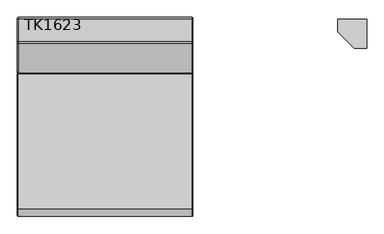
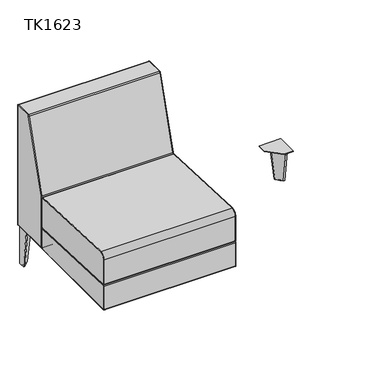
"""IFC4 building model written with IfcOpenShell, lengths in millimetres: furniture geometry, JSI-Teekan-Two_Seat_Lounge : TK1623."""

from ifc_helpers import new_model, si_unit, point, frame, origin, place, context, project, spatial, polyline, circle_curve, ellipse_curve, trimmed, outline, extrude, source, transform, mapped, element, save
from ifc_brep_helpers import plane_surface, cylinder_surface, revolved_surface, spline_surface, advanced_brep


def tk1623_f2258a03(model_context):
    return source(origin(), model_context, "Body", "SolidModel", [
        advanced_brep(
        [(599.6013333, 340.133006, 3.1926572), (599.6013333, 340.133006, 4.9994321), (599.6013333, 325.6863843, 4.9994321), (599.6013333, 325.6863843, 3.1926572), (599.6013333, 336.9403488, 0.0), (599.6013333, 328.8790415, 0.0), (599.6013333, 332.9096951, 0.0), (599.6013333, 332.9096951, 4.9994321)],
        [
            (0, 1),
            (1, 2, circle_curve(frame((599.6013333, 332.9096951, 4.9994321), z_axis=(0.0, 0.0, -1.0), x_axis=(0.0, -1.0, 0.0)), 7.2233108)),
            (2, 3),
            (3, 0, circle_curve(frame((599.6013333, 332.9096951, 3.1926572), z_axis=(0.0, 0.0, 1.0), x_axis=(0.0, -1.0, 0.0)), 7.2233108)),
            (2, 1, circle_curve(frame((599.6013333, 332.9096951, 4.9994321), z_axis=(0.0, 0.0, -1.0), x_axis=(0.0, -1.0, 0.0)), 7.2233108)),
            (0, 3, circle_curve(frame((599.6013333, 332.9096951, 3.1926572), z_axis=(0.0, 0.0, 1.0), x_axis=(0.0, -1.0, 0.0)), 7.2233108)),
            (4, 0, circle_curve(frame((599.6013333, 336.9403488, 3.1926572), z_axis=(1.0, 0.0, 0.0), x_axis=(0.0, 1.0, 0.0)), 3.1926572)),
            (3, 5, circle_curve(frame((599.6013333, 328.8790415, 3.1926572), z_axis=(1.0, 0.0, 0.0), x_axis=(0.0, -1.0, 0.0)), 3.1926572)),
            (5, 4, circle_curve(frame((599.6013333, 332.9096951, 0.0), z_axis=(0.0, 0.0, 1.0), x_axis=(0.0, -1.0, 0.0)), 4.0306536)),
            (4, 5, circle_curve(frame((599.6013333, 332.9096951, 0.0), z_axis=(0.0, 0.0, 1.0), x_axis=(0.0, -1.0, 0.0)), 4.0306536)),
            (6, 4),
            (5, 6),
            (1, 7),
            (7, 2),
        ],
        [
            cylinder_surface(frame((599.6013333, 332.9096951, 14.2077797), z_axis=(0.0, 0.0, -1.0), x_axis=(0.0, -1.0, 0.0)), 7.2233108),
            revolved_surface(trimmed(ellipse_curve(frame((599.6013333, 328.8790415, 3.1926572), z_axis=(1.0, 0.0, 0.0), x_axis=(0.0, -1.0, 0.0)), 3.1926572, 3.1926572), [point((599.6013333, 325.6863843, 3.1926572))], [point((599.6013333, 328.8790415, 0.0))], True, "CARTESIAN"), (599.6013333, 332.9096951, 14.2077797), (0.0, 0.0, -1.0)),
            plane_surface(frame((599.6013333, 332.9096951, 0.0), z_axis=(0.0, 0.0, -1.0), x_axis=(0.0, -1.0, 0.0))),
            plane_surface(frame((599.6013333, 332.9096951, 4.9994321), z_axis=(0.0, 0.0, 1.0), x_axis=(0.0, -1.0, 0.0))),
        ],
        [
            (0, [[1, 2, 3, 4]]),
            (0, [[-3, 5, -1, 6]]),
            (1, [[7, -4, 8, 9]]),
            (1, [[-8, -6, -7, 10]]),
            (2, [[11, -9, 12]]),
            (2, [[-12, -10, -11]]),
            (3, [[13, 14, -2]]),
            (3, [[-14, -13, -5]]),
        ],
    ),
        advanced_brep(
        [(555.625, 336.5496631, 189.4817329), (603.25, 288.9246631, 189.4817329), (609.6, 288.9246631, 189.4817329), (609.6, 339.725, 189.4817329), (606.425, 342.9, 189.4817329), (555.625, 342.9, 189.4817329), (577.85, 336.5496631, 4.9994321), (577.85, 342.9, 4.9994321), (606.3969923, 342.9, 4.9994321), (609.6, 339.6969923, 4.9994321), (609.6, 311.1496631, 4.9994321), (603.25, 311.1496631, 4.9994321)],
        [
            (0, 1),
            (1, 2),
            (2, 3),
            (3, 4, circle_curve(frame((606.425, 339.725, 189.4817329), z_axis=(0.0, 0.0, 1.0), x_axis=(-1.0, 0.0, 0.0)), 3.175)),
            (4, 5),
            (5, 0),
            (6, 7),
            (7, 8),
            (8, 9, circle_curve(frame((606.3969923, 339.6969923, 4.9994321), z_axis=(0.0, 0.0, -1.0), x_axis=(-1.0, 0.0, 0.0)), 3.2030077)),
            (9, 10),
            (10, 11),
            (11, 6),
            (6, 0),
            (5, 7),
            (4, 8),
            (3, 9),
            (2, 10),
            (1, 11),
        ],
        [
            plane_surface(frame((590.0208333, 323.3206649, 189.4817329), z_axis=(0.0, 0.0, 1.0), x_axis=(-1.0, 0.0, 0.0))),
            plane_surface(frame((597.4244987, 330.7243303, 4.9994321), z_axis=(0.0, 0.0, -1.0), x_axis=(-1.0, 0.0, 0.0))),
            plane_surface(frame((577.85, 339.7248316, 4.9994321), z_axis=(-0.9928212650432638, 0.0, -0.11960742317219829), x_axis=(0.0, 1.0, 0.0))),
            plane_surface(frame((592.1234961, 342.9, 4.9994321), z_axis=(0.0, 1.0, 0.0), x_axis=(1.0, 0.0, 0.0))),
            spline_surface(1, 2, [[(606.3969923, 342.9, 4.9994321), (609.5999999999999, 342.8999999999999, 4.9994321), (609.6, 339.6969923, 4.9994321)], [(606.425, 342.9, 189.4817329), (609.5999999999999, 342.8999999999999, 189.4817329), (609.6, 339.725, 189.4817329)]], [2, 2], [3, 3], [0.0, 1.0], [0.0, 1.0], weights=[[1.0, 0.7071067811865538, 1.0], [1.0, 0.7071067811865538, 1.0]]),
            plane_surface(frame((609.6, 325.4233277, 4.9994321), z_axis=(1.0, 0.0, 0.0), x_axis=(0.0, -1.0, 0.0))),
            plane_surface(frame((606.425, 311.1496631, 4.9994321), z_axis=(0.0, -0.992821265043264, -0.11960742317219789), x_axis=(-1.0, 0.0, 0.0))),
            plane_surface(frame((590.55, 323.8496631, 4.9994321), z_axis=(-0.7045550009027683, -0.7045550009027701, -0.08487933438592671), x_axis=(-0.7071067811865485, 0.7071067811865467, 0.0))),
        ],
        [
            (0, [[1, 2, 3, 4, 5, 6]]),
            (1, [[7, 8, 9, 10, 11, 12]]),
            (2, [[13, -6, 14, -7]]),
            (3, [[-14, -5, 15, -8]]),
            (4, [[-15, -4, 16, -9]]),
            (5, [[-16, -3, 17, -10]]),
            (6, [[-17, -2, 18, -11]]),
            (7, [[-18, -1, -13, -12]]),
        ],
    ),
        extrude(outline(polyline([(508.0, 342.9), (609.6, 342.9), (609.6, 241.3), (566.7375, 241.3), (508.0, 300.0375), (508.0, 342.9)])), frame((0.0, 0.0, 189.4817329), z_axis=(0.0, 0.0, 1.0), x_axis=(1.0, 0.0, 0.0)), (0.0, 0.0, 1.0), 3.175),
        advanced_brep(
        [(-599.6013333, 340.133006, 3.1926572), (-599.6013333, 325.6863843, 3.1926572), (-599.6013333, 325.6863843, 4.9994321), (-599.6013333, 340.133006, 4.9994321), (-599.6013333, 336.9403488, 0.0), (-599.6013333, 328.8790415, 0.0), (-599.6013333, 332.9096951, 0.0), (-599.6013333, 332.9096951, 4.9994321)],
        [
            (0, 1, circle_curve(frame((-599.6013333, 332.9096951, 3.1926572), z_axis=(0.0, 0.0, 1.0), x_axis=(0.0, -1.0, 0.0)), 7.2233108)),
            (1, 2),
            (2, 3, circle_curve(frame((-599.6013333, 332.9096951, 4.9994321), z_axis=(0.0, 0.0, -1.0), x_axis=(0.0, -1.0, 0.0)), 7.2233108)),
            (3, 0),
            (1, 0, circle_curve(frame((-599.6013333, 332.9096951, 3.1926572), z_axis=(0.0, 0.0, 1.0), x_axis=(0.0, -1.0, 0.0)), 7.2233108)),
            (3, 2, circle_curve(frame((-599.6013333, 332.9096951, 4.9994321), z_axis=(0.0, 0.0, -1.0), x_axis=(0.0, -1.0, 0.0)), 7.2233108)),
            (4, 5, circle_curve(frame((-599.6013333, 332.9096951, 0.0), z_axis=(0.0, 0.0, 1.0), x_axis=(0.0, -1.0, 0.0)), 4.0306536)),
            (5, 1, circle_curve(frame((-599.6013333, 328.8790415, 3.1926572), z_axis=(-1.0, 0.0, 0.0), x_axis=(0.0, -1.0, 0.0)), 3.1926572)),
            (0, 4, circle_curve(frame((-599.6013333, 336.9403488, 3.1926572), z_axis=(-1.0, 0.0, 0.0), x_axis=(0.0, 1.0, 0.0)), 3.1926572)),
            (5, 4, circle_curve(frame((-599.6013333, 332.9096951, 0.0), z_axis=(0.0, 0.0, 1.0), x_axis=(0.0, -1.0, 0.0)), 4.0306536)),
            (6, 5),
            (4, 6),
            (2, 7),
            (7, 3),
        ],
        [
            cylinder_surface(frame((-599.6013333, 332.9096951, 14.2077797), z_axis=(0.0, 0.0, -1.0), x_axis=(0.0, -1.0, 0.0)), 7.2233108),
            revolved_surface(trimmed(ellipse_curve(frame((-599.6013333, 328.8790415, 3.1926572), z_axis=(1.0, 0.0, 0.0), x_axis=(0.0, -1.0, 0.0)), 3.1926572, 3.1926572), [point((-599.6013333, 325.6863843, 3.1926572))], [point((-599.6013333, 328.8790415, 0.0))], True, "CARTESIAN"), (-599.6013333, 332.9096951, 14.2077797), (0.0, 0.0, -1.0)),
            plane_surface(frame((-599.6013333, 332.9096951, 0.0), z_axis=(0.0, 0.0, -1.0), x_axis=(0.0, -1.0, 0.0))),
            plane_surface(frame((-599.6013333, 332.9096951, 4.9994321), z_axis=(0.0, 0.0, 1.0), x_axis=(0.0, -1.0, 0.0))),
        ],
        [
            (0, [[1, 2, 3, 4]]),
            (0, [[5, -4, 6, -2]]),
            (1, [[7, 8, -1, 9]]),
            (1, [[10, -9, -5, -8]]),
            (2, [[11, -7, 12]]),
            (2, [[-12, -10, -11]]),
            (3, [[-3, 13, 14]]),
            (3, [[-6, -14, -13]]),
        ],
    ),
        advanced_brep(
        [(-555.625, 336.5496631, 189.4817329), (-555.625, 342.9, 189.4817329), (-606.425, 342.9, 189.4817329), (-609.6, 339.725, 189.4817329), (-609.6, 288.9246631, 189.4817329), (-603.25, 288.9246631, 189.4817329), (-577.85, 336.5496631, 4.9994321), (-603.25, 311.1496631, 4.9994321), (-609.6, 311.1496631, 4.9994321), (-609.6, 339.6969923, 4.9994321), (-606.3969923, 342.9, 4.9994321), (-577.85, 342.9, 4.9994321)],
        [
            (0, 1),
            (1, 2),
            (2, 3, circle_curve(frame((-606.425, 339.725, 189.4817329), z_axis=(0.0, 0.0, 1.0), x_axis=(1.0, 0.0, 0.0)), 3.175)),
            (3, 4),
            (4, 5),
            (5, 0),
            (6, 7),
            (7, 8),
            (8, 9),
            (9, 10, circle_curve(frame((-606.3969923, 339.6969923, 4.9994321), z_axis=(0.0, 0.0, -1.0), x_axis=(1.0, 0.0, 0.0)), 3.2030077)),
            (10, 11),
            (11, 6),
            (11, 1),
            (0, 6),
            (10, 2),
            (9, 3),
            (8, 4),
            (7, 5),
        ],
        [
            plane_surface(frame((-590.0208333, 323.3206649, 189.4817329), z_axis=(0.0, 0.0, 1.0), x_axis=(1.0, 0.0, 0.0))),
            plane_surface(frame((-597.4244987, 330.7243303, 4.9994321), z_axis=(0.0, 0.0, -1.0), x_axis=(1.0, 0.0, 0.0))),
            plane_surface(frame((-577.85, 339.7248316, 4.9994321), z_axis=(0.9928212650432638, 0.0, -0.11960742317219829), x_axis=(0.0, 1.0, 0.0))),
            plane_surface(frame((-592.1234961, 342.9, 4.9994321), z_axis=(0.0, 1.0, 0.0), x_axis=(-1.0, 0.0, 0.0))),
            spline_surface(2, 1, [[(-606.3969923, 342.9, 4.9994321), (-606.425, 342.9, 189.4817329)], [(-609.5999999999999, 342.8999999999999, 4.9994321), (-609.5999999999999, 342.8999999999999, 189.4817329)], [(-609.6, 339.6969923, 4.9994321), (-609.6, 339.725, 189.4817329)]], [3, 3], [2, 2], [0.0, 1.0], [0.0, 1.0], weights=[[1.0, 1.0], [0.7071067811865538, 0.7071067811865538], [1.0, 1.0]]),
            plane_surface(frame((-609.6, 325.4233277, 4.9994321), z_axis=(-1.0, 0.0, 0.0), x_axis=(0.0, -1.0, 0.0))),
            plane_surface(frame((-606.425, 311.1496631, 4.9994321), z_axis=(0.0, -0.992821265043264, -0.11960742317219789), x_axis=(1.0, 0.0, 0.0))),
            plane_surface(frame((-590.55, 323.8496631, 4.9994321), z_axis=(0.7045550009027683, -0.7045550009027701, -0.08487933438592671), x_axis=(0.7071067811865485, 0.7071067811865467, 0.0))),
        ],
        [
            (0, [[1, 2, 3, 4, 5, 6]]),
            (1, [[7, 8, 9, 10, 11, 12]]),
            (2, [[-12, 13, -1, 14]]),
            (3, [[-11, 15, -2, -13]]),
            (4, [[-10, 16, -3, -15]]),
            (5, [[-9, 17, -4, -16]]),
            (6, [[-8, 18, -5, -17]]),
            (7, [[-7, -14, -6, -18]]),
        ],
    ),
        extrude(outline(polyline([(-508.0, 342.9), (-508.0, 300.0375), (-566.7375, 241.3), (-609.6, 241.3), (-609.6, 342.9), (-508.0, 342.9)])), frame((0.0, 0.0, 189.4817329), z_axis=(0.0, 0.0, 1.0), x_axis=(1.0, 0.0, 0.0)), (0.0, 0.0, 1.0), 3.175),
        advanced_brep(
        [(-2.38125, 148.7693192, 295.6513391), (-2.38125, 153.733973, 300.4095468), (0.0, 151.352723, 300.4095468), (0.0, 148.8703961, 298.0304429), (-613.56875, 148.7693192, 295.6513391), (-613.56875, 153.733973, 300.4095468), (-615.95, 148.8703961, 298.0304429), (-615.95, 151.352723, 300.4095468), (0.0, -344.5512855, 318.9936072), (-2.38125, -344.6523625, 316.6145034), (-613.56875, -344.6523625, 316.6145034), (-615.95, -344.5512855, 318.9936072), (-2.38125, -322.7527962, 467.50355), (0.0, -322.8538731, 465.1244462), (0.0, 149.0725499, 445.0745142), (-2.38125, 149.1736269, 447.4536181), (-613.56875, 149.1736269, 447.4536181), (-613.56875, -322.7527962, 467.50355), (-615.95, 149.0725499, 445.0745142), (-615.95, -322.8538731, 465.1244462), (0.0, 151.352723, 442.6954104), (-2.38125, 153.733973, 442.6954104), (-613.56875, 153.733973, 442.6954104), (-615.95, 151.352723, 442.6954104), (0.0, -346.8497, 321.3917439), (-2.38125, -349.23095, 321.3917439), (-613.56875, -349.23095, 321.3917439), (-615.95, -346.8497, 321.3917439), (0.0, -346.8497, 442.1264425), (-2.38125, -349.23095, 442.1264425), (-613.56875, -349.23095, 442.1264425), (-615.95, -346.8497, 442.1264425)],
        [
            (0, 1, circle_curve(frame((-2.38125, 148.971473, 300.4095468), z_axis=(1.0, 0.0, 0.0), x_axis=(0.0, 1.0, 0.0)), 4.7625)),
            (1, 2, circle_curve(frame((-2.38125, 151.352723, 300.4095468), z_axis=(0.0, 0.0, -1.0), x_axis=(1.0, 0.0, 0.0)), 2.38125)),
            (2, 3, circle_curve(frame((0.0, 148.971473, 300.4095468), z_axis=(-1.0, 0.0, 0.0), x_axis=(0.0, 1.0, 0.0)), 2.38125)),
            (3, 0, circle_curve(frame((-2.38125, 148.8703961, 298.0304429), z_axis=(0.0, 0.9990987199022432, -0.04244700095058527), x_axis=(1.0, 0.0, 0.0)), 2.38125)),
            (0, 4),
            (4, 5, circle_curve(frame((-613.56875, 148.971473, 300.4095468), z_axis=(1.0, 0.0, 0.0), x_axis=(0.0, 1.0, 0.0)), 4.7625)),
            (5, 1),
            (4, 6, circle_curve(frame((-613.56875, 148.8703961, 298.0304429), z_axis=(0.0, 0.999098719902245, -0.042447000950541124), x_axis=(1.0, 0.0, 0.0)), 2.38125)),
            (6, 7, circle_curve(frame((-615.95, 148.971473, 300.4095468), z_axis=(1.0, 0.0, 0.0), x_axis=(0.0, 1.0, 0.0)), 2.38125)),
            (7, 5, circle_curve(frame((-613.56875, 151.352723, 300.4095468), z_axis=(0.0, 0.0, -1.0), x_axis=(1.0, 0.0, 0.0)), 2.38125)),
            (3, 8),
            (8, 9, circle_curve(frame((-2.38125, -344.5512855, 318.9936072), z_axis=(0.0, 0.9990987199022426, -0.04244700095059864), x_axis=(1.0, 0.0, 0.0)), 2.38125)),
            (9, 0),
            (9, 10),
            (10, 4),
            (10, 11, circle_curve(frame((-613.56875, -344.5512855, 318.9936072), z_axis=(0.0, 0.9990987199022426, -0.04244700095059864), x_axis=(1.0, 0.0, 0.0)), 2.38125)),
            (11, 6),
            (12, 13, circle_curve(frame((-2.38125, -322.8538731, 465.1244462), z_axis=(0.0, 0.9990987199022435, -0.0424470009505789), x_axis=(1.0, 0.0, 0.0)), 2.38125)),
            (13, 14),
            (14, 15, circle_curve(frame((-2.38125, 149.0725499, 445.0745142), z_axis=(0.0, -0.9990987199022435, 0.0424470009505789), x_axis=(1.0, 0.0, 0.0)), 2.38125)),
            (15, 12),
            (15, 16),
            (16, 17),
            (17, 12),
            (16, 18, circle_curve(frame((-613.56875, 149.0725499, 445.0745142), z_axis=(0.0, -0.9990987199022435, 0.0424470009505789), x_axis=(1.0, 0.0, 0.0)), 2.38125)),
            (18, 19),
            (19, 17, circle_curve(frame((-613.56875, -322.8538731, 465.1244462), z_axis=(0.0, 0.9990987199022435, -0.0424470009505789), x_axis=(1.0, 0.0, 0.0)), 2.38125)),
            (14, 20, circle_curve(frame((0.0, 148.971473, 442.6954104), z_axis=(-1.0, 0.0, 0.0), x_axis=(0.0, 0.04244700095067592, 0.9990987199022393)), 2.38125)),
            (20, 21, circle_curve(frame((-2.38125, 151.352723, 442.6954104), z_axis=(0.0, 0.0, 1.0), x_axis=(1.0, 0.0, 0.0)), 2.38125)),
            (21, 15, circle_curve(frame((-2.38125, 148.971473, 442.6954104), z_axis=(1.0, 0.0, 0.0), x_axis=(0.0, 0.04244700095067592, 0.9990987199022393)), 4.7625)),
            (21, 22),
            (22, 16, circle_curve(frame((-613.56875, 148.971473, 442.6954104), z_axis=(1.0, 0.0, 0.0), x_axis=(0.0, 0.04244700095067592, 0.9990987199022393)), 4.7625)),
            (22, 23, circle_curve(frame((-613.56875, 151.352723, 442.6954104), z_axis=(0.0, 0.0, 1.0), x_axis=(1.0, 0.0, 0.0)), 2.38125)),
            (23, 18, circle_curve(frame((-615.95, 148.971473, 442.6954104), z_axis=(1.0, 0.0, 0.0), x_axis=(0.0, 0.04244700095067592, 0.9990987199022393)), 2.38125)),
            (1, 21),
            (20, 2),
            (5, 22),
            (7, 23),
            (8, 24, circle_curve(frame((0.0, -344.4494, 321.3917439), z_axis=(-1.0, 0.0, 0.0), x_axis=(0.0, -0.04244700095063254, -0.9990987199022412)), 2.4003)),
            (24, 25, circle_curve(frame((-2.38125, -346.8497, 321.3917439), z_axis=(0.0, 0.0, -1.0), x_axis=(1.0, 0.0, 0.0)), 2.38125)),
            (25, 9, circle_curve(frame((-2.38125, -344.4494, 321.3917439), z_axis=(1.0, 0.0, 0.0), x_axis=(0.0, -0.04244700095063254, -0.9990987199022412)), 4.78155)),
            (25, 26),
            (26, 10, circle_curve(frame((-613.56875, -344.4494, 321.3917439), z_axis=(1.0, 0.0, 0.0), x_axis=(0.0, -0.04244700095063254, -0.9990987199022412)), 4.78155)),
            (26, 27, circle_curve(frame((-613.56875, -346.8497, 321.3917439), z_axis=(0.0, 0.0, -1.0), x_axis=(1.0, 0.0, 0.0)), 2.38125)),
            (27, 11, circle_curve(frame((-615.95, -344.4494, 321.3917439), z_axis=(1.0, 0.0, 0.0), x_axis=(0.0, -0.04244700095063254, -0.9990987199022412)), 2.4003)),
            (24, 28),
            (28, 29, circle_curve(frame((-2.38125, -346.8497, 442.1264425), z_axis=(0.0, 0.0, -1.0), x_axis=(1.0, 0.0, 0.0)), 2.38125)),
            (29, 25),
            (29, 30),
            (30, 26),
            (30, 31, circle_curve(frame((-613.56875, -346.8497, 442.1264425), z_axis=(0.0, 0.0, -1.0), x_axis=(1.0, 0.0, 0.0)), 2.38125)),
            (31, 27),
            (13, 28, circle_curve(frame((0.0, -323.83095, 442.1264425), z_axis=(1.0, 0.0, 0.0), x_axis=(0.0, -1.0, 0.0)), 23.01875)),
            (12, 29, circle_curve(frame((-2.38125, -323.83095, 442.1264425), z_axis=(1.0, 0.0, 0.0), x_axis=(0.0, -1.0, 0.0)), 25.4)),
            (17, 30, circle_curve(frame((-613.56875, -323.83095, 442.1264425), z_axis=(1.0, 0.0, 0.0), x_axis=(0.0, -1.0, 0.0)), 25.4)),
            (19, 31, circle_curve(frame((-615.95, -323.83095, 442.1264425), z_axis=(1.0, 0.0, 0.0), x_axis=(0.0, -1.0, 0.0)), 23.01875)),
        ],
        [
            revolved_surface(trimmed(ellipse_curve(frame((-2.38125, 151.352723, 300.4095468), z_axis=(0.0, 0.0, 1.0), x_axis=(1.0, 0.0, 0.0)), 2.38125, 2.38125), [point((0.0, 151.352723, 300.4095468))], [point((-2.38125, 153.733973, 300.4095468))], True, "CARTESIAN"), (-307.975, 148.971473, 300.4095468), (-1.0, 0.0, 0.0)),
            cylinder_surface(frame((-307.975, 148.971473, 300.4095468), z_axis=(-1.0, 0.0, 0.0), x_axis=(0.0, 1.0, 0.0)), 4.7625),
            revolved_surface(trimmed(ellipse_curve(frame((-613.56875, 151.352723, 300.4095468), z_axis=(0.0, 0.0, 1.0), x_axis=(1.0, 0.0, 0.0)), 2.38125, 2.38125), [point((-613.56875, 153.733973, 300.4095468))], [point((-615.95, 151.352723, 300.4095468))], True, "CARTESIAN"), (-307.975, 148.971473, 300.4095468), (-1.0, 0.0, 0.0)),
            cylinder_surface(frame((-2.38125, 148.8703961, 298.0304429), z_axis=(0.0, 0.9990987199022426, -0.04244700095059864), x_axis=(1.0, 0.0, 0.0)), 2.38125),
            plane_surface(frame((-2.38125, 148.7693192, 295.6513391), z_axis=(0.0, -0.04244700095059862, -0.9990987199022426), x_axis=(0.0, -0.9990987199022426, 0.04244700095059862))),
            cylinder_surface(frame((-613.56875, 148.8703961, 298.0304429), z_axis=(0.0, 0.9990987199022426, -0.04244700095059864), x_axis=(1.0, 0.0, 0.0)), 2.38125),
            cylinder_surface(frame((-2.38125, -322.8538731, 465.1244462), z_axis=(0.0, -0.9990987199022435, 0.0424470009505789), x_axis=(1.0, 0.0, 0.0)), 2.38125),
            plane_surface(frame((-2.38125, -322.7527962, 467.50355), z_axis=(0.0, 0.04244700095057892, 0.9990987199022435), x_axis=(0.0, 0.9990987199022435, -0.04244700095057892))),
            cylinder_surface(frame((-613.56875, -322.8538731, 465.1244462), z_axis=(0.0, -0.9990987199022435, 0.0424470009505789), x_axis=(1.0, 0.0, 0.0)), 2.38125),
            revolved_surface(trimmed(ellipse_curve(frame((-2.38125, 149.0725499, 445.0745142), z_axis=(0.0, -0.9990987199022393, 0.04244700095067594), x_axis=(1.0, 0.0, 0.0)), 2.38125, 2.38125), [point((0.0, 149.0725499, 445.0745142))], [point((-2.38125, 149.1736269, 447.4536181))], True, "CARTESIAN"), (-307.975, 148.971473, 442.6954104), (-1.0, 0.0, 0.0)),
            cylinder_surface(frame((-307.975, 148.971473, 442.6954104), z_axis=(-1.0, 0.0, 0.0), x_axis=(0.0, 0.04244700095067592, 0.9990987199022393)), 4.7625),
            revolved_surface(trimmed(ellipse_curve(frame((-613.56875, 149.0725499, 445.0745142), z_axis=(0.0, -0.9990987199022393, 0.04244700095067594), x_axis=(1.0, 0.0, 0.0)), 2.38125, 2.38125), [point((-613.56875, 149.1736269, 447.4536181))], [point((-615.95, 149.0725499, 445.0745142))], True, "CARTESIAN"), (-307.975, 148.971473, 442.6954104), (-1.0, 0.0, 0.0)),
            cylinder_surface(frame((-2.38125, 151.352723, 442.6954104), z_axis=(0.0, 0.0, 1.0), x_axis=(1.0, 0.0, 0.0)), 2.38125),
            plane_surface(frame((-2.38125, 153.733973, 442.6954104), z_axis=(0.0, 1.0, 0.0), x_axis=(0.0, 0.0, -1.0))),
            cylinder_surface(frame((-613.56875, 151.352723, 442.6954104), z_axis=(0.0, 0.0, 1.0), x_axis=(1.0, 0.0, 0.0)), 2.38125),
            revolved_surface(trimmed(ellipse_curve(frame((-2.38125, -344.5512855, 318.9936072), z_axis=(0.0, 0.9990987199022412, -0.042447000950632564), x_axis=(1.0, 0.0, 0.0)), 2.38125, 2.38125), [point((0.0, -344.5512855, 318.9936072))], [point((-2.38125, -344.6523625, 316.6145034))], True, "CARTESIAN"), (-307.975, -344.4494, 321.3917439), (-1.0, 0.0, 0.0)),
            cylinder_surface(frame((-307.975, -344.4494, 321.3917439), z_axis=(-1.0, 0.0, 0.0), x_axis=(0.0, -0.04244700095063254, -0.9990987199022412)), 4.78155),
            revolved_surface(trimmed(ellipse_curve(frame((-613.56875, -344.5512855, 318.9936072), z_axis=(0.0, 0.9990987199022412, -0.042447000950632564), x_axis=(1.0, 0.0, 0.0)), 2.38125, 2.38125), [point((-613.56875, -344.6523625, 316.6145034))], [point((-615.95, -344.5512855, 318.9936072))], True, "CARTESIAN"), (-307.975, -344.4494, 321.3917439), (-1.0, 0.0, 0.0)),
            cylinder_surface(frame((-2.38125, -346.8497, 321.3917439), z_axis=(0.0, 0.0, -1.0), x_axis=(1.0, 0.0, 0.0)), 2.38125),
            plane_surface(frame((-2.38125, -349.23095, 321.3917439), z_axis=(0.0, -1.0, 0.0), x_axis=(0.0, 0.0, 1.0))),
            cylinder_surface(frame((-613.56875, -346.8497, 321.3917439), z_axis=(0.0, 0.0, -1.0), x_axis=(1.0, 0.0, 0.0)), 2.38125),
            plane_surface(frame((0.0, -323.83095, 442.1264425), z_axis=(1.0, 0.0, 0.0), x_axis=(0.0, -1.0, 0.0))),
            revolved_surface(trimmed(ellipse_curve(frame((-2.38125, -346.8497, 442.1264425), z_axis=(0.0, 0.0, -1.0), x_axis=(1.0, 0.0, 0.0)), 2.38125, 2.38125), [point((0.0, -346.8497, 442.1264425))], [point((-2.38125, -349.23095, 442.1264425))], True, "CARTESIAN"), (-307.975, -323.83095, 442.1264425), (-1.0, 0.0, 0.0)),
            cylinder_surface(frame((-307.975, -323.83095, 442.1264425), z_axis=(-1.0, 0.0, 0.0), x_axis=(0.0, -1.0, 0.0)), 25.4),
            revolved_surface(trimmed(ellipse_curve(frame((-613.56875, -346.8497, 442.1264425), z_axis=(0.0, 0.0, -1.0), x_axis=(1.0, 0.0, 0.0)), 2.38125, 2.38125), [point((-613.56875, -349.23095, 442.1264425))], [point((-615.95, -346.8497, 442.1264425))], True, "CARTESIAN"), (-307.975, -323.83095, 442.1264425), (-1.0, 0.0, 0.0)),
            plane_surface(frame((-615.95, -323.83095, 442.1264425), z_axis=(-1.0, 0.0, 0.0), x_axis=(0.0, -1.0, 0.0))),
        ],
        [
            (0, [[1, 2, 3, 4]]),
            (1, [[-1, 5, 6, 7]]),
            (2, [[-6, 8, 9, 10]]),
            (3, [[-4, 11, 12, 13]]),
            (4, [[-5, -13, 14, 15]]),
            (5, [[-8, -15, 16, 17]]),
            (6, [[18, 19, 20, 21]]),
            (7, [[-21, 22, 23, 24]]),
            (8, [[-23, 25, 26, 27]]),
            (9, [[-20, 28, 29, 30]]),
            (10, [[-22, -30, 31, 32]]),
            (11, [[-25, -32, 33, 34]]),
            (12, [[-2, 35, -29, 36]]),
            (13, [[-7, 37, -31, -35]]),
            (14, [[-10, 38, -33, -37]]),
            (15, [[-12, 39, 40, 41]]),
            (16, [[-14, -41, 42, 43]]),
            (17, [[-16, -43, 44, 45]]),
            (18, [[-40, 46, 47, 48]]),
            (19, [[-42, -48, 49, 50]]),
            (20, [[-44, -50, 51, 52]]),
            (21, [[-3, -36, -28, -19, 53, -46, -39, -11]]),
            (22, [[-18, 54, -47, -53]]),
            (23, [[-24, 55, -49, -54]]),
            (24, [[-27, 56, -51, -55]]),
            (25, [[-9, -17, -45, -52, -56, -26, -34, -38]]),
        ],
    ),
        advanced_brep(
        [(-613.56875, -349.25, 197.5346851), (-2.38125, -349.25, 197.5346851), (-2.38125, -349.25, 311.8407029), (-613.56875, -349.25, 311.8407029), (-615.95, -346.86875, 311.8407029), (-615.95, -346.86875, 197.5346851), (0.0, -346.86875, 197.5346851), (0.0, -346.86875, 311.8407029), (-613.56875, -344.2853462, 316.5989106), (-2.38125, -344.2853462, 316.5989106), (-2.38125, 149.169864, 295.6343219), (-613.56875, 149.169864, 295.6343219), (-615.95, 149.0687871, 293.255218), (-615.95, -344.3864231, 314.2198068), (0.0, -344.3864231, 314.2198068), (0.0, 149.0687871, 293.255218), (-2.38125, 153.7302102, 290.8761142), (-613.56875, 153.7302102, 290.8761142), (-615.95, 151.3489602, 290.8761142), (0.0, 151.3489602, 290.8761142), (-2.38125, 153.7302102, 197.5346851), (-613.56875, 153.7302102, 197.5346851), (-615.95, 151.3489602, 197.5346851), (0.0, 151.3489602, 197.5346851), (-2.38125, 148.9677102, 192.7721851), (-613.56875, 148.9677102, 192.7721851), (-615.95, 148.9677102, 195.1534351), (0.0, 148.9677102, 195.1534351), (-2.38125, -344.4875, 192.7721851), (-613.56875, -344.4875, 192.7721851), (-615.95, -344.4875, 195.1534351), (0.0, -344.4875, 195.1534351)],
        [
            (0, 1),
            (1, 2),
            (2, 3),
            (3, 0),
            (3, 4, circle_curve(frame((-613.56875, -346.86875, 311.8407029), z_axis=(0.0, 0.0, -1.0), x_axis=(0.0, -1.0, 0.0)), 2.38125)),
            (4, 5),
            (5, 0, circle_curve(frame((-613.56875, -346.86875, 197.5346851), z_axis=(0.0, 0.0, 1.0), x_axis=(0.0, -1.0, 0.0)), 2.38125)),
            (1, 6, circle_curve(frame((-2.38125, -346.86875, 197.5346851), z_axis=(0.0, 0.0, 1.0), x_axis=(0.0, -1.0, 0.0)), 2.38125)),
            (6, 7),
            (7, 2, circle_curve(frame((-2.38125, -346.86875, 311.8407029), z_axis=(0.0, 0.0, -1.0), x_axis=(0.0, -1.0, 0.0)), 2.38125)),
            (8, 9),
            (9, 10),
            (10, 11),
            (11, 8),
            (11, 12, circle_curve(frame((-613.56875, 149.0687871, 293.255218), z_axis=(0.0, -0.9990987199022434, 0.04244700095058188), x_axis=(0.0, 0.04244700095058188, 0.9990987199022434)), 2.38125)),
            (12, 13),
            (13, 8, circle_curve(frame((-613.56875, -344.3864231, 314.2198068), z_axis=(0.0, 0.9990987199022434, -0.04244700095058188), x_axis=(0.0, 0.04244700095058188, 0.9990987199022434)), 2.38125)),
            (9, 14, circle_curve(frame((-2.38125, -344.3864231, 314.2198068), z_axis=(0.0, 0.9990987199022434, -0.04244700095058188), x_axis=(0.0, 0.04244700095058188, 0.9990987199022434)), 2.38125)),
            (14, 15),
            (15, 10, circle_curve(frame((-2.38125, 149.0687871, 293.255218), z_axis=(0.0, -0.9990987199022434, 0.04244700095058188), x_axis=(0.0, 0.04244700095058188, 0.9990987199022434)), 2.38125)),
            (10, 16, circle_curve(frame((-2.38125, 148.9677102, 290.8761142), z_axis=(-1.0, 0.0, 0.0), x_axis=(0.0, 0.0424470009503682, 0.9990987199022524)), 4.7625)),
            (16, 17),
            (17, 11, circle_curve(frame((-613.56875, 148.9677102, 290.8761142), z_axis=(1.0, 0.0, 0.0), x_axis=(0.0, 0.0424470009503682, 0.9990987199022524)), 4.7625)),
            (17, 18, circle_curve(frame((-613.56875, 151.3489602, 290.8761142), z_axis=(0.0, 0.0, 1.0), x_axis=(0.0, 1.0, 0.0)), 2.38125)),
            (18, 12, circle_curve(frame((-615.95, 148.9677102, 290.8761142), z_axis=(1.0, 0.0, 0.0), x_axis=(0.0, 0.0424470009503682, 0.9990987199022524)), 2.38125)),
            (15, 19, circle_curve(frame((0.0, 148.9677102, 290.8761142), z_axis=(-1.0, 0.0, 0.0), x_axis=(0.0, 0.0424470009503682, 0.9990987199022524)), 2.38125)),
            (19, 16, circle_curve(frame((-2.38125, 151.3489602, 290.8761142), z_axis=(0.0, 0.0, 1.0), x_axis=(0.0, 1.0, 0.0)), 2.38125)),
            (16, 20),
            (20, 21),
            (21, 17),
            (21, 22, circle_curve(frame((-613.56875, 151.3489602, 197.5346851), z_axis=(0.0, 0.0, 1.0), x_axis=(0.0, 1.0, 0.0)), 2.38125)),
            (22, 18),
            (19, 23),
            (23, 20, circle_curve(frame((-2.38125, 151.3489602, 197.5346851), z_axis=(0.0, 0.0, 1.0), x_axis=(0.0, 1.0, 0.0)), 2.38125)),
            (20, 24, circle_curve(frame((-2.38125, 148.9677102, 197.5346851), z_axis=(-1.0, 0.0, 0.0), x_axis=(0.0, 1.0, 0.0)), 4.7625)),
            (24, 25),
            (25, 21, circle_curve(frame((-613.56875, 148.9677102, 197.5346851), z_axis=(1.0, 0.0, 0.0), x_axis=(0.0, 1.0, 0.0)), 4.7625)),
            (25, 26, circle_curve(frame((-613.56875, 148.9677102, 195.1534351), z_axis=(0.0, 1.0, 0.0), x_axis=(0.0, 0.0, -1.0)), 2.38125)),
            (26, 22, circle_curve(frame((-615.95, 148.9677102, 197.5346851), z_axis=(1.0, 0.0, 0.0), x_axis=(0.0, 1.0, 0.0)), 2.38125)),
            (23, 27, circle_curve(frame((0.0, 148.9677102, 197.5346851), z_axis=(-1.0, 0.0, 0.0), x_axis=(0.0, 1.0, 0.0)), 2.38125)),
            (27, 24, circle_curve(frame((-2.38125, 148.9677102, 195.1534351), z_axis=(0.0, 1.0, 0.0), x_axis=(0.0, 0.0, -1.0)), 2.38125)),
            (24, 28),
            (28, 29),
            (29, 25),
            (29, 30, circle_curve(frame((-613.56875, -344.4875, 195.1534351), z_axis=(0.0, 1.0, 0.0), x_axis=(0.0, 0.0, -1.0)), 2.38125)),
            (30, 26),
            (27, 31),
            (31, 28, circle_curve(frame((-2.38125, -344.4875, 195.1534351), z_axis=(0.0, 1.0, 0.0), x_axis=(0.0, 0.0, -1.0)), 2.38125)),
            (0, 29, circle_curve(frame((-613.56875, -344.4875, 197.5346851), z_axis=(1.0, 0.0, 0.0), x_axis=(0.0, 0.0, -1.0)), 4.7625)),
            (28, 1, circle_curve(frame((-2.38125, -344.4875, 197.5346851), z_axis=(-1.0, 0.0, 0.0), x_axis=(0.0, 0.0, -1.0)), 4.7625)),
            (5, 30, circle_curve(frame((-615.95, -344.4875, 197.5346851), z_axis=(1.0, 0.0, 0.0), x_axis=(0.0, 0.0, -1.0)), 2.38125)),
            (31, 6, circle_curve(frame((0.0, -344.4875, 197.5346851), z_axis=(-1.0, 0.0, 0.0), x_axis=(0.0, 0.0, -1.0)), 2.38125)),
            (2, 9, circle_curve(frame((-2.38125, -344.4875, 311.8407029), z_axis=(-1.0, 0.0, 0.0), x_axis=(0.0, -1.0, 0.0)), 4.7625)),
            (8, 3, circle_curve(frame((-613.56875, -344.4875, 311.8407029), z_axis=(1.0, 0.0, 0.0), x_axis=(0.0, -1.0, 0.0)), 4.7625)),
            (13, 4, circle_curve(frame((-615.95, -344.4875, 311.8407029), z_axis=(1.0, 0.0, 0.0), x_axis=(0.0, -1.0, 0.0)), 2.38125)),
            (14, 7, circle_curve(frame((0.0, -344.4875, 311.8407029), z_axis=(1.0, 0.0, 0.0), x_axis=(0.0, -1.0, 0.0)), 2.38125)),
        ],
        [
            plane_surface(frame((-2.38125, -349.25, 197.5346851), z_axis=(0.0, -1.0, 0.0), x_axis=(0.0, 0.0, 1.0))),
            cylinder_surface(frame((-613.56875, -346.86875, 197.5346851), z_axis=(0.0, 0.0, -1.0), x_axis=(0.0, -1.0, 0.0)), 2.38125),
            cylinder_surface(frame((-2.38125, -346.86875, 197.5346851), z_axis=(0.0, 0.0, -1.0), x_axis=(0.0, -1.0, 0.0)), 2.38125),
            plane_surface(frame((-2.38125, -344.2853462, 316.5989106), z_axis=(0.0, 0.04244700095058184, 0.9990987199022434), x_axis=(0.0, 0.9990987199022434, -0.04244700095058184))),
            cylinder_surface(frame((-613.56875, -344.3864231, 314.2198068), z_axis=(0.0, -0.9990987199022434, 0.04244700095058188), x_axis=(0.0, 0.04244700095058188, 0.9990987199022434)), 2.38125),
            cylinder_surface(frame((-2.38125, -344.3864231, 314.2198068), z_axis=(0.0, -0.9990987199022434, 0.04244700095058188), x_axis=(0.0, 0.04244700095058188, 0.9990987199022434)), 2.38125),
            cylinder_surface(frame((-307.975, 148.9677102, 290.8761142), z_axis=(-1.0, 0.0, 0.0), x_axis=(0.0, 0.0424470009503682, 0.9990987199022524)), 4.7625),
            revolved_surface(trimmed(ellipse_curve(frame((-613.56875, 149.0687871, 293.255218), z_axis=(0.0, -0.9990987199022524, 0.042447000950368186), x_axis=(0.0, 0.042447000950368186, 0.9990987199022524)), 2.38125, 2.38125), [point((-613.56875, 149.169864, 295.6343219))], [point((-615.95, 149.0687871, 293.255218))], True, "CARTESIAN"), (-307.975, 148.9677102, 290.8761142), (-1.0, 0.0, 0.0)),
            revolved_surface(trimmed(ellipse_curve(frame((-2.38125, 149.0687871, 293.255218), z_axis=(0.0, -0.9990987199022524, 0.042447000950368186), x_axis=(0.0, 0.042447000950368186, 0.9990987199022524)), 2.38125, 2.38125), [point((0.0, 149.0687871, 293.255218))], [point((-2.38125, 149.169864, 295.6343219))], True, "CARTESIAN"), (-307.975, 148.9677102, 290.8761142), (-1.0, 0.0, 0.0)),
            plane_surface(frame((-2.38125, 153.7302102, 290.8761142), z_axis=(0.0, 1.0, 0.0), x_axis=(0.0, 0.0, -1.0))),
            cylinder_surface(frame((-613.56875, 151.3489602, 290.8761142), z_axis=(0.0, 0.0, 1.0), x_axis=(0.0, 1.0, 0.0)), 2.38125),
            cylinder_surface(frame((-2.38125, 151.3489602, 290.8761142), z_axis=(0.0, 0.0, 1.0), x_axis=(0.0, 1.0, 0.0)), 2.38125),
            cylinder_surface(frame((-307.975, 148.9677102, 197.5346851), z_axis=(-1.0, 0.0, 0.0), x_axis=(0.0, 1.0, 0.0)), 4.7625),
            revolved_surface(trimmed(ellipse_curve(frame((-613.56875, 151.3489602, 197.5346851), z_axis=(0.0, 0.0, 1.0), x_axis=(0.0, 1.0, 0.0)), 2.38125, 2.38125), [point((-613.56875, 153.7302102, 197.5346851))], [point((-615.95, 151.3489602, 197.5346851))], True, "CARTESIAN"), (-307.975, 148.9677102, 197.5346851), (-1.0, 0.0, 0.0)),
            revolved_surface(trimmed(ellipse_curve(frame((-2.38125, 151.3489602, 197.5346851), z_axis=(0.0, 0.0, 1.0), x_axis=(0.0, 1.0, 0.0)), 2.38125, 2.38125), [point((0.0, 151.3489602, 197.5346851))], [point((-2.38125, 153.7302102, 197.5346851))], True, "CARTESIAN"), (-307.975, 148.9677102, 197.5346851), (-1.0, 0.0, 0.0)),
            plane_surface(frame((-2.38125, 148.9677102, 192.7721851), z_axis=(0.0, 0.0, -1.0), x_axis=(0.0, -1.0, 0.0))),
            cylinder_surface(frame((-613.56875, 148.9677102, 195.1534351), z_axis=(0.0, 1.0, 0.0), x_axis=(0.0, 0.0, -1.0)), 2.38125),
            cylinder_surface(frame((-2.38125, 148.9677102, 195.1534351), z_axis=(0.0, 1.0, 0.0), x_axis=(0.0, 0.0, -1.0)), 2.38125),
            cylinder_surface(frame((-307.975, -344.4875, 197.5346851), z_axis=(-1.0, 0.0, 0.0), x_axis=(0.0, 0.0, -1.0)), 4.7625),
            revolved_surface(trimmed(ellipse_curve(frame((-613.56875, -344.4875, 195.1534351), z_axis=(0.0, 1.0, 0.0), x_axis=(0.0, 0.0, -1.0)), 2.38125, 2.38125), [point((-613.56875, -344.4875, 192.7721851))], [point((-615.95, -344.4875, 195.1534351))], True, "CARTESIAN"), (-307.975, -344.4875, 197.5346851), (-1.0, 0.0, 0.0)),
            revolved_surface(trimmed(ellipse_curve(frame((-2.38125, -344.4875, 195.1534351), z_axis=(0.0, 1.0, 0.0), x_axis=(0.0, 0.0, -1.0)), 2.38125, 2.38125), [point((0.0, -344.4875, 195.1534351))], [point((-2.38125, -344.4875, 192.7721851))], True, "CARTESIAN"), (-307.975, -344.4875, 197.5346851), (-1.0, 0.0, 0.0)),
            cylinder_surface(frame((-307.975, -344.4875, 311.8407029), z_axis=(-1.0, 0.0, 0.0), x_axis=(0.0, -1.0, 0.0)), 4.7625),
            revolved_surface(trimmed(ellipse_curve(frame((-613.56875, -346.86875, 311.8407029), z_axis=(0.0, 0.0, -1.0), x_axis=(0.0, -1.0, 0.0)), 2.38125, 2.38125), [point((-613.56875, -349.25, 311.8407029))], [point((-615.95, -346.86875, 311.8407029))], True, "CARTESIAN"), (-307.975, -344.4875, 311.8407029), (-1.0, 0.0, 0.0)),
            plane_surface(frame((-615.95, -344.4875, 311.8407029), z_axis=(-1.0, 0.0, 0.0), x_axis=(0.0, -1.0, 0.0))),
            plane_surface(frame((0.0, -344.4875, 311.8407029), z_axis=(1.0, 0.0, 0.0), x_axis=(0.0, -1.0, 0.0))),
            revolved_surface(trimmed(ellipse_curve(frame((-2.38125, -346.86875, 311.8407029), z_axis=(0.0, 0.0, -1.0), x_axis=(0.0, -1.0, 0.0)), 2.38125, 2.38125), [point((0.0, -346.86875, 311.8407029))], [point((-2.38125, -349.25, 311.8407029))], True, "CARTESIAN"), (-307.975, -344.4875, 311.8407029), (-1.0, 0.0, 0.0)),
        ],
        [
            (0, [[1, 2, 3, 4]]),
            (1, [[-4, 5, 6, 7]]),
            (2, [[-2, 8, 9, 10]]),
            (3, [[11, 12, 13, 14]]),
            (4, [[-14, 15, 16, 17]]),
            (5, [[-12, 18, 19, 20]]),
            (6, [[-13, 21, 22, 23]]),
            (7, [[-15, -23, 24, 25]]),
            (8, [[-20, 26, 27, -21]]),
            (9, [[-22, 28, 29, 30]]),
            (10, [[-24, -30, 31, 32]]),
            (11, [[-27, 33, 34, -28]]),
            (12, [[-29, 35, 36, 37]]),
            (13, [[-31, -37, 38, 39]]),
            (14, [[-34, 40, 41, -35]]),
            (15, [[-36, 42, 43, 44]]),
            (16, [[-38, -44, 45, 46]]),
            (17, [[-41, 47, 48, -42]]),
            (18, [[-1, 49, -43, 50]]),
            (19, [[-7, 51, -45, -49]]),
            (20, [[-8, -50, -48, 52]]),
            (21, [[-3, 53, -11, 54]]),
            (22, [[-5, -54, -17, 55]]),
            (23, [[-6, -55, -16, -25, -32, -39, -46, -51]]),
            (24, [[-9, -52, -47, -40, -33, -26, -19, 56]]),
            (25, [[-10, -56, -18, -53]]),
        ],
    ),
        advanced_brep(
        [(0.0, 261.4671324, 783.3496278), (0.0, 263.7394056, 785.01875), (-2.38125, 263.7394056, 787.4), (-2.38125, 259.1948592, 784.0617556), (-613.56875, 259.1948592, 784.0617556), (-613.56875, 263.7394056, 787.4), (-615.95, 263.7394056, 785.01875), (-615.95, 261.4671324, 783.3496278), (-2.38125, 155.07802, 451.8434221), (0.0, 157.3502932, 451.1312943), (-615.95, 157.3502932, 451.1312943), (-613.56875, 155.07802, 451.8434221), (-2.38125, 153.733973, 443.0605128), (0.0, 156.115223, 443.0605128), (-615.95, 156.115223, 443.0605128), (-613.56875, 153.733973, 443.0605128), (-2.38125, 153.733973, 197.5346851), (0.0, 156.115223, 197.5346851), (-615.95, 156.115223, 197.5346851), (-613.56875, 153.733973, 197.5346851), (-2.38125, 158.496473, 192.7721851), (0.0, 158.496473, 195.1534351), (-615.95, 158.496473, 195.1534351), (-613.56875, 158.496473, 192.7721851), (-2.38125, 344.4875, 192.7721851), (0.0, 344.4875, 195.1534351), (-615.95, 344.4875, 195.1534351), (-613.56875, 344.4875, 192.7721851), (-2.38125, 349.25, 197.5346851), (0.0, 346.86875, 197.5346851), (-615.95, 346.86875, 197.5346851), (-613.56875, 349.25, 197.5346851), (-2.38125, 349.25, 782.6375), (0.0, 346.86875, 782.6375), (-615.95, 346.86875, 782.6375), (-613.56875, 349.25, 782.6375), (-2.38125, 344.4875, 787.4), (0.0, 344.4875, 785.01875), (-615.95, 344.4875, 785.01875), (-613.56875, 344.4875, 787.4)],
        [
            (0, 1, circle_curve(frame((0.0, 263.7394056, 782.6375), z_axis=(-1.0, 0.0, 0.0), x_axis=(0.0, 0.0, 1.0)), 2.38125)),
            (1, 2, circle_curve(frame((-2.38125, 263.7394056, 785.01875), z_axis=(0.0, -1.0, 0.0), x_axis=(0.0, 0.0, -1.0)), 2.38125)),
            (2, 3, circle_curve(frame((-2.38125, 263.7394056, 782.6375), z_axis=(1.0, 0.0, 0.0), x_axis=(0.0, 0.0, 1.0)), 4.7625)),
            (3, 0, circle_curve(frame((-2.38125, 261.4671324, 783.3496278), z_axis=(0.0, 0.2990562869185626, 0.9542354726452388), x_axis=(0.0, 0.9542354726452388, -0.2990562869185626)), 2.38125)),
            (4, 5, circle_curve(frame((-613.56875, 263.7394056, 782.6375), z_axis=(-1.0, 0.0, 0.0), x_axis=(0.0, 0.0, 1.0)), 4.7625)),
            (5, 6, circle_curve(frame((-613.56875, 263.7394056, 785.01875), z_axis=(0.0, -1.0, 0.0), x_axis=(0.0, 0.0, -1.0)), 2.38125)),
            (6, 7, circle_curve(frame((-615.95, 263.7394056, 782.6375), z_axis=(1.0, 0.0, 0.0), x_axis=(0.0, 0.0, 1.0)), 2.38125)),
            (7, 4, circle_curve(frame((-613.56875, 261.4671324, 783.3496278), z_axis=(0.0, 0.29905628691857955, 0.9542354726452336), x_axis=(0.0, 0.9542354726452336, -0.29905628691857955)), 2.38125)),
            (2, 5),
            (4, 3),
            (3, 8),
            (8, 9, circle_curve(frame((-2.38125, 157.3502932, 451.1312943), z_axis=(0.0, 0.29905628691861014, 0.954235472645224), x_axis=(0.0, 0.954235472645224, -0.29905628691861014)), 2.38125)),
            (9, 0),
            (7, 10),
            (10, 11, circle_curve(frame((-613.56875, 157.3502932, 451.1312943), z_axis=(0.0, 0.29905628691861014, 0.954235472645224), x_axis=(0.0, 0.954235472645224, -0.29905628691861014)), 2.38125)),
            (11, 4),
            (11, 8),
            (8, 12, circle_curve(frame((-2.38125, 183.102723, 443.0605128), z_axis=(1.0, 0.0, 0.0), x_axis=(0.0, -0.9542354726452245, 0.29905628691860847)), 29.36875)),
            (12, 13, circle_curve(frame((-2.38125, 156.115223, 443.0605128), z_axis=(0.0, 0.0, 1.0), x_axis=(0.0, 1.0, 0.0)), 2.38125)),
            (13, 9, circle_curve(frame((0.0, 183.102723, 443.0605128), z_axis=(-1.0, 0.0, 0.0), x_axis=(0.0, -0.9542354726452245, 0.29905628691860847)), 26.9875)),
            (10, 14, circle_curve(frame((-615.95, 183.102723, 443.0605128), z_axis=(1.0, 0.0, 0.0), x_axis=(0.0, -0.9542354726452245, 0.29905628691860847)), 26.9875)),
            (14, 15, circle_curve(frame((-613.56875, 156.115223, 443.0605128), z_axis=(0.0, 0.0, 1.0), x_axis=(0.0, 1.0, 0.0)), 2.38125)),
            (15, 11, circle_curve(frame((-613.56875, 183.102723, 443.0605128), z_axis=(-1.0, 0.0, 0.0), x_axis=(0.0, -0.9542354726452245, 0.29905628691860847)), 29.36875)),
            (15, 12),
            (12, 16),
            (16, 17, circle_curve(frame((-2.38125, 156.115223, 197.5346851), z_axis=(0.0, 0.0, 1.0), x_axis=(0.0, 1.0, 0.0)), 2.38125)),
            (17, 13),
            (14, 18),
            (18, 19, circle_curve(frame((-613.56875, 156.115223, 197.5346851), z_axis=(0.0, 0.0, 1.0), x_axis=(0.0, 1.0, 0.0)), 2.38125)),
            (19, 15),
            (19, 16),
            (16, 20, circle_curve(frame((-2.38125, 158.496473, 197.5346851), z_axis=(1.0, 0.0, 0.0), x_axis=(0.0, -1.0, 0.0)), 4.7625)),
            (20, 21, circle_curve(frame((-2.38125, 158.496473, 195.1534351), z_axis=(0.0, -1.0, 0.0), x_axis=(0.0, 0.0, 1.0)), 2.38125)),
            (21, 17, circle_curve(frame((0.0, 158.496473, 197.5346851), z_axis=(-1.0, 0.0, 0.0), x_axis=(0.0, -1.0, 0.0)), 2.38125)),
            (18, 22, circle_curve(frame((-615.95, 158.496473, 197.5346851), z_axis=(1.0, 0.0, 0.0), x_axis=(0.0, -1.0, 0.0)), 2.38125)),
            (22, 23, circle_curve(frame((-613.56875, 158.496473, 195.1534351), z_axis=(0.0, -1.0, 0.0), x_axis=(0.0, 0.0, 1.0)), 2.38125)),
            (23, 19, circle_curve(frame((-613.56875, 158.496473, 197.5346851), z_axis=(-1.0, 0.0, 0.0), x_axis=(0.0, -1.0, 0.0)), 4.7625)),
            (23, 20),
            (20, 24),
            (24, 25, circle_curve(frame((-2.38125, 344.4875, 195.1534351), z_axis=(0.0, -1.0, 0.0), x_axis=(0.0, 0.0, 1.0)), 2.38125)),
            (25, 21),
            (22, 26),
            (26, 27, circle_curve(frame((-613.56875, 344.4875, 195.1534351), z_axis=(0.0, -1.0, 0.0), x_axis=(0.0, 0.0, 1.0)), 2.38125)),
            (27, 23),
            (27, 24),
            (24, 28, circle_curve(frame((-2.38125, 344.4875, 197.5346851), z_axis=(1.0, 0.0, 0.0), x_axis=(0.0, 0.0, -1.0)), 4.7625)),
            (28, 29, circle_curve(frame((-2.38125, 346.86875, 197.5346851), z_axis=(0.0, 0.0, -1.0), x_axis=(0.0, -1.0, 0.0)), 2.38125)),
            (29, 25, circle_curve(frame((0.0, 344.4875, 197.5346851), z_axis=(-1.0, 0.0, 0.0), x_axis=(0.0, 0.0, -1.0)), 2.38125)),
            (26, 30, circle_curve(frame((-615.95, 344.4875, 197.5346851), z_axis=(1.0, 0.0, 0.0), x_axis=(0.0, 0.0, -1.0)), 2.38125)),
            (30, 31, circle_curve(frame((-613.56875, 346.86875, 197.5346851), z_axis=(0.0, 0.0, -1.0), x_axis=(0.0, -1.0, 0.0)), 2.38125)),
            (31, 27, circle_curve(frame((-613.56875, 344.4875, 197.5346851), z_axis=(-1.0, 0.0, 0.0), x_axis=(0.0, 0.0, -1.0)), 4.7625)),
            (31, 28),
            (28, 32),
            (32, 33, circle_curve(frame((-2.38125, 346.86875, 782.6375), z_axis=(0.0, 0.0, -1.0), x_axis=(0.0, -1.0, 0.0)), 2.38125)),
            (33, 29),
            (30, 34),
            (34, 35, circle_curve(frame((-613.56875, 346.86875, 782.6375), z_axis=(0.0, 0.0, -1.0), x_axis=(0.0, -1.0, 0.0)), 2.38125)),
            (35, 31),
            (35, 32),
            (32, 36, circle_curve(frame((-2.38125, 344.4875, 782.6375), z_axis=(1.0, 0.0, 0.0), x_axis=(0.0, 1.0, 0.0)), 4.7625)),
            (36, 37, circle_curve(frame((-2.38125, 344.4875, 785.01875), z_axis=(0.0, 1.0, 0.0), x_axis=(0.0, 0.0, -1.0)), 2.38125)),
            (37, 33, circle_curve(frame((0.0, 344.4875, 782.6375), z_axis=(-1.0, 0.0, 0.0), x_axis=(0.0, 1.0, 0.0)), 2.38125)),
            (34, 38, circle_curve(frame((-615.95, 344.4875, 782.6375), z_axis=(1.0, 0.0, 0.0), x_axis=(0.0, 1.0, 0.0)), 2.38125)),
            (38, 39, circle_curve(frame((-613.56875, 344.4875, 785.01875), z_axis=(0.0, 1.0, 0.0), x_axis=(0.0, 0.0, -1.0)), 2.38125)),
            (39, 35, circle_curve(frame((-613.56875, 344.4875, 782.6375), z_axis=(-1.0, 0.0, 0.0), x_axis=(0.0, 1.0, 0.0)), 4.7625)),
            (39, 36),
            (1, 37),
            (36, 2),
            (6, 38),
            (5, 39),
        ],
        [
            revolved_surface(trimmed(ellipse_curve(frame((-2.38125, 263.7394056, 785.01875), z_axis=(0.0, 1.0, 0.0), x_axis=(0.0, 0.0, -1.0)), 2.38125, 2.38125), [point((-2.38125, 263.7394056, 787.4))], [point((0.0, 263.7394056, 785.01875))], True, "CARTESIAN"), (-307.975, 263.7394056, 782.6375), (1.0, 0.0, 0.0)),
            revolved_surface(trimmed(ellipse_curve(frame((-613.56875, 263.7394056, 785.01875), z_axis=(0.0, 1.0, 0.0), x_axis=(0.0, 0.0, -1.0)), 2.38125, 2.38125), [point((-615.95, 263.7394056, 785.01875))], [point((-613.56875, 263.7394056, 787.4))], True, "CARTESIAN"), (-307.975, 263.7394056, 782.6375), (1.0, 0.0, 0.0)),
            cylinder_surface(frame((-307.975, 263.7394056, 782.6375), z_axis=(1.0, 0.0, 0.0), x_axis=(0.0, 0.0, 1.0)), 4.7625),
            cylinder_surface(frame((-2.38125, 261.4671324, 783.3496278), z_axis=(0.0, 0.29905628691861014, 0.954235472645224), x_axis=(0.0, 0.954235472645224, -0.29905628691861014)), 2.38125),
            cylinder_surface(frame((-613.56875, 261.4671324, 783.3496278), z_axis=(0.0, 0.29905628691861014, 0.954235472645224), x_axis=(0.0, 0.954235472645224, -0.29905628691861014)), 2.38125),
            plane_surface(frame((-613.56875, 259.1948592, 784.0617556), z_axis=(0.0, -0.9542354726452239, 0.29905628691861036), x_axis=(0.0, -0.29905628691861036, -0.9542354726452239))),
            revolved_surface(trimmed(ellipse_curve(frame((-2.38125, 157.3502932, 451.1312943), z_axis=(0.0, 0.299056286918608, 0.9542354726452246), x_axis=(0.0, 0.9542354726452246, -0.299056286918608)), 2.38125, 2.38125), [point((-2.38125, 155.07802, 451.8434221))], [point((0.0, 157.3502932, 451.1312943))], True, "CARTESIAN"), (-307.975, 183.102723, 443.0605128), (1.0, 0.0, 0.0)),
            revolved_surface(trimmed(ellipse_curve(frame((-613.56875, 157.3502932, 451.1312943), z_axis=(0.0, 0.299056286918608, 0.9542354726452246), x_axis=(0.0, 0.9542354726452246, -0.299056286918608)), 2.38125, 2.38125), [point((-615.95, 157.3502932, 451.1312943))], [point((-613.56875, 155.07802, 451.8434221))], True, "CARTESIAN"), (-307.975, 183.102723, 443.0605128), (1.0, 0.0, 0.0)),
            cylinder_surface(frame((-307.975, 183.102723, 443.0605128), z_axis=(1.0, 0.0, 0.0), x_axis=(0.0, -0.9542354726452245, 0.29905628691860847)), 29.36875),
            cylinder_surface(frame((-2.38125, 156.115223, 443.0605128), z_axis=(0.0, 0.0, 1.0), x_axis=(0.0, 1.0, 0.0)), 2.38125),
            cylinder_surface(frame((-613.56875, 156.115223, 443.0605128), z_axis=(0.0, 0.0, 1.0), x_axis=(0.0, 1.0, 0.0)), 2.38125),
            plane_surface(frame((-613.56875, 153.733973, 443.0605128), z_axis=(0.0, -1.0, 0.0), x_axis=(0.0, 0.0, -1.0))),
            revolved_surface(trimmed(ellipse_curve(frame((-2.38125, 156.115223, 197.5346851), z_axis=(0.0, 0.0, 1.0), x_axis=(0.0, 1.0, 0.0)), 2.38125, 2.38125), [point((-2.38125, 153.733973, 197.5346851))], [point((0.0, 156.115223, 197.5346851))], True, "CARTESIAN"), (-307.975, 158.496473, 197.5346851), (1.0, 0.0, 0.0)),
            revolved_surface(trimmed(ellipse_curve(frame((-613.56875, 156.115223, 197.5346851), z_axis=(0.0, 0.0, 1.0), x_axis=(0.0, 1.0, 0.0)), 2.38125, 2.38125), [point((-615.95, 156.115223, 197.5346851))], [point((-613.56875, 153.733973, 197.5346851))], True, "CARTESIAN"), (-307.975, 158.496473, 197.5346851), (1.0, 0.0, 0.0)),
            cylinder_surface(frame((-307.975, 158.496473, 197.5346851), z_axis=(1.0, 0.0, 0.0), x_axis=(0.0, -1.0, 0.0)), 4.7625),
            cylinder_surface(frame((-2.38125, 158.496473, 195.1534351), z_axis=(0.0, -1.0, 0.0), x_axis=(0.0, 0.0, 1.0)), 2.38125),
            cylinder_surface(frame((-613.56875, 158.496473, 195.1534351), z_axis=(0.0, -1.0, 0.0), x_axis=(0.0, 0.0, 1.0)), 2.38125),
            plane_surface(frame((-613.56875, 158.496473, 192.7721851), z_axis=(0.0, 0.0, -1.0), x_axis=(0.0, 1.0, 0.0))),
            revolved_surface(trimmed(ellipse_curve(frame((-2.38125, 344.4875, 195.1534351), z_axis=(0.0, -1.0, 0.0), x_axis=(0.0, 0.0, 1.0)), 2.38125, 2.38125), [point((-2.38125, 344.4875, 192.7721851))], [point((0.0, 344.4875, 195.1534351))], True, "CARTESIAN"), (-307.975, 344.4875, 197.5346851), (1.0, 0.0, 0.0)),
            revolved_surface(trimmed(ellipse_curve(frame((-613.56875, 344.4875, 195.1534351), z_axis=(0.0, -1.0, 0.0), x_axis=(0.0, 0.0, 1.0)), 2.38125, 2.38125), [point((-615.95, 344.4875, 195.1534351))], [point((-613.56875, 344.4875, 192.7721851))], True, "CARTESIAN"), (-307.975, 344.4875, 197.5346851), (1.0, 0.0, 0.0)),
            cylinder_surface(frame((-307.975, 344.4875, 197.5346851), z_axis=(1.0, 0.0, 0.0), x_axis=(0.0, 0.0, -1.0)), 4.7625),
            cylinder_surface(frame((-2.38125, 346.86875, 197.5346851), z_axis=(0.0, 0.0, -1.0), x_axis=(0.0, -1.0, 0.0)), 2.38125),
            cylinder_surface(frame((-613.56875, 346.86875, 197.5346851), z_axis=(0.0, 0.0, -1.0), x_axis=(0.0, -1.0, 0.0)), 2.38125),
            plane_surface(frame((-613.56875, 349.25, 197.5346851), z_axis=(0.0, 1.0, 0.0), x_axis=(0.0, 0.0, 1.0))),
            revolved_surface(trimmed(ellipse_curve(frame((-2.38125, 346.86875, 782.6375), z_axis=(0.0, 0.0, -1.0), x_axis=(0.0, -1.0, 0.0)), 2.38125, 2.38125), [point((-2.38125, 349.25, 782.6375))], [point((0.0, 346.86875, 782.6375))], True, "CARTESIAN"), (-307.975, 344.4875, 782.6375), (1.0, 0.0, 0.0)),
            revolved_surface(trimmed(ellipse_curve(frame((-613.56875, 346.86875, 782.6375), z_axis=(0.0, 0.0, -1.0), x_axis=(0.0, -1.0, 0.0)), 2.38125, 2.38125), [point((-615.95, 346.86875, 782.6375))], [point((-613.56875, 349.25, 782.6375))], True, "CARTESIAN"), (-307.975, 344.4875, 782.6375), (1.0, 0.0, 0.0)),
            cylinder_surface(frame((-307.975, 344.4875, 782.6375), z_axis=(1.0, 0.0, 0.0), x_axis=(0.0, 1.0, 0.0)), 4.7625),
            cylinder_surface(frame((-2.38125, 344.4875, 785.01875), z_axis=(0.0, 1.0, 0.0), x_axis=(0.0, 0.0, -1.0)), 2.38125),
            plane_surface(frame((0.0, 344.4875, 785.01875), z_axis=(1.0, 0.0, 0.0), x_axis=(0.0, -1.0, 0.0))),
            plane_surface(frame((-615.95, 344.4875, 783.43125), z_axis=(-1.0, 0.0, 0.0), x_axis=(0.0, -1.0, 0.0))),
            cylinder_surface(frame((-613.56875, 344.4875, 785.01875), z_axis=(0.0, 1.0, 0.0), x_axis=(0.0, 0.0, -1.0)), 2.38125),
            plane_surface(frame((-613.56875, 344.4875, 787.4), z_axis=(0.0, 0.0, 1.0), x_axis=(0.0, -1.0, 0.0))),
        ],
        [
            (0, [[1, 2, 3, 4]]),
            (1, [[5, 6, 7, 8]]),
            (2, [[-3, 9, -5, 10]]),
            (3, [[-4, 11, 12, 13]]),
            (4, [[-8, 14, 15, 16]]),
            (5, [[-10, -16, 17, -11]]),
            (6, [[-12, 18, 19, 20]]),
            (7, [[-15, 21, 22, 23]]),
            (8, [[-17, -23, 24, -18]]),
            (9, [[-19, 25, 26, 27]]),
            (10, [[-22, 28, 29, 30]]),
            (11, [[-24, -30, 31, -25]]),
            (12, [[-26, 32, 33, 34]]),
            (13, [[-29, 35, 36, 37]]),
            (14, [[-31, -37, 38, -32]]),
            (15, [[-33, 39, 40, 41]]),
            (16, [[-36, 42, 43, 44]]),
            (17, [[-38, -44, 45, -39]]),
            (18, [[-40, 46, 47, 48]]),
            (19, [[-43, 49, 50, 51]]),
            (20, [[-45, -51, 52, -46]]),
            (21, [[-47, 53, 54, 55]]),
            (22, [[-50, 56, 57, 58]]),
            (23, [[-52, -58, 59, -53]]),
            (24, [[-54, 60, 61, 62]]),
            (25, [[-57, 63, 64, 65]]),
            (26, [[-59, -65, 66, -60]]),
            (27, [[-2, 67, -61, 68]]),
            (28, [[-1, -13, -20, -27, -34, -41, -48, -55, -62, -67]]),
            (29, [[-7, 69, -63, -56, -49, -42, -35, -28, -21, -14]]),
            (30, [[-6, 70, -64, -69]]),
            (31, [[-9, -68, -66, -70]]),
        ],
    ),
    ])


if __name__ == "__main__":
    model = new_model("IFC4")
    model_context = context("Model", 3, world=origin())
    ifc_project = project(units=[si_unit("LENGTHUNIT", "METRE", prefix="MILLI")], contexts=[model_context])
    site = spatial("IfcSite", under=ifc_project)
    building = spatial("IfcBuilding", under=site)
    placement = place(None, origin())
    tk1623_shape = tk1623_f2258a03(model_context)
    element("IfcFurniture", 1, ObjectType="JSI-Teekan-Two_Seat_Lounge : TK1623", at=placement, inside=building, context=model_context, shape_type="MappedRepresentation", body=[
        mapped(tk1623_shape, transform((0.0, 0.0, 0.0), x_axis=(1.0, 0.0, 0.0), y_axis=(0.0, 1.0, 0.0), z_axis=(0.0, 0.0, 1.0))),
    ])
    save(model, "model.ifc")
